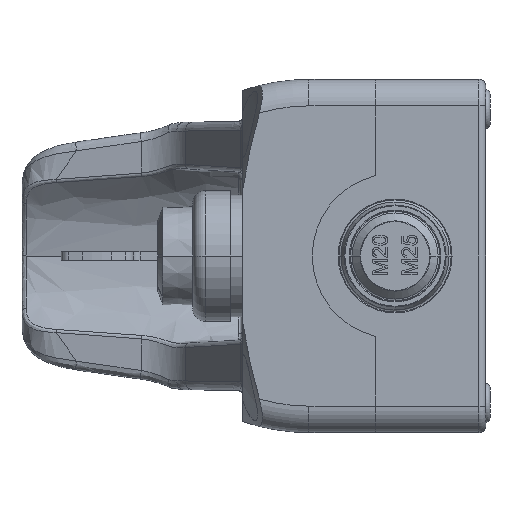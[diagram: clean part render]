
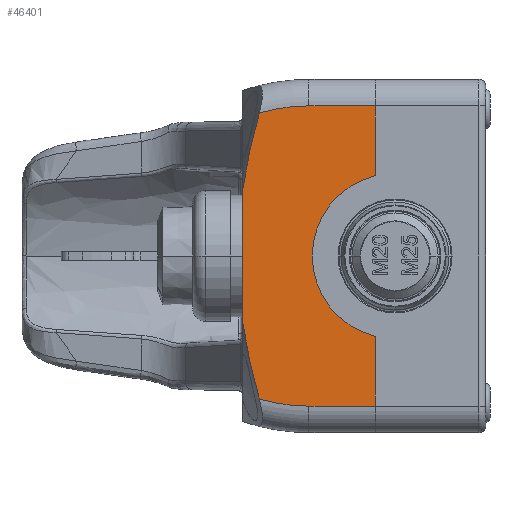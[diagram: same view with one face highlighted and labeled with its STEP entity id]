
A CAD part, left-side view. The second image highlights one B-rep face of the part: STEP entity #46401.
In plain terms, the highlighted planar face has unit normal (-1, 0, 0) as drawn and (0, 0, -1) by its records, which use the part's own axes.
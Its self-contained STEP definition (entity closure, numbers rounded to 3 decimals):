
#942 = CARTESIAN_POINT ( 'NONE',  ( -15.124, 15., -36. ) ) ;
#2735 = CARTESIAN_POINT ( 'NONE',  ( 34., -15., -36. ) ) ;
#3059 = EDGE_CURVE ( 'NONE', #12461, #13041, #3309, .T. ) ;
#3309 = CIRCLE ( 'NONE', #8504, 18.75 ) ;
#3587 = CIRCLE ( 'NONE', #16630, 40.25 ) ;
#4662 = CARTESIAN_POINT ( 'NONE',  ( 26.709, 12.744, -36. ) ) ;
#4939 = ORIENTED_EDGE ( 'NONE', *, *, #47620, .F. ) ;
#5105 = VERTEX_POINT ( 'NONE', #21615 ) ;
#7128 = EDGE_CURVE ( 'NONE', #32638, #5105, #8930, .T. ) ;
#7131 = CARTESIAN_POINT ( 'NONE',  ( 0., -15., -36. ) ) ;
#8496 = PLANE ( 'NONE',  #20454 ) ;
#8504 = AXIS2_PLACEMENT_3D ( 'NONE', #43169, #22752, #39355 ) ;
#8930 = LINE ( 'NONE', #13820, #27939 ) ;
#9232 = DIRECTION ( 'NONE',  ( 0., 0., 1. ) ) ;
#9378 = EDGE_CURVE ( 'NONE', #36283, #29370, #3587, .T. ) ;
#10438 = EDGE_LOOP ( 'NONE', ( #31411, #4939, #46120, #10799, #24593, #47996, #31450, #20978, #23201, #12227 ) ) ;
#10563 = DIRECTION ( 'NONE',  ( 0., -1., 0. ) ) ;
#10799 = ORIENTED_EDGE ( 'NONE', *, *, #37179, .F. ) ;
#10981 = CARTESIAN_POINT ( 'NONE',  ( 34., 0., -36. ) ) ;
#12227 = ORIENTED_EDGE ( 'NONE', *, *, #24559, .T. ) ;
#12461 = VERTEX_POINT ( 'NONE', #20524 ) ;
#13041 = VERTEX_POINT ( 'NONE', #47893 ) ;
#13301 = CARTESIAN_POINT ( 'NONE',  ( 6.25, 0., -36. ) ) ;
#13820 = CARTESIAN_POINT ( 'NONE',  ( -34., -15., -36. ) ) ;
#14096 = DIRECTION ( 'NONE',  ( -1., 0., 0. ) ) ;
#15175 = VERTEX_POINT ( 'NONE', #18053 ) ;
#15843 = DIRECTION ( 'NONE',  ( 0., 0., -1. ) ) ;
#16630 = AXIS2_PLACEMENT_3D ( 'NONE', #53319, #15843, #16919 ) ;
#16895 = CARTESIAN_POINT ( 'NONE',  ( 15.124, 15., -36. ) ) ;
#16911 = DIRECTION ( 'NONE',  ( 0., 0., -1. ) ) ;
#16919 = DIRECTION ( 'NONE',  ( -1., 0., 0. ) ) ;
#17173 = CARTESIAN_POINT ( 'NONE',  ( 32.396, 11.249, -36. ) ) ;
#17496 = CARTESIAN_POINT ( 'NONE',  ( -18.056, 14.56, -36. ) ) ;
#18053 = CARTESIAN_POINT ( 'NONE',  ( -32.396, 11.249, -36. ) ) ;
#20454 = AXIS2_PLACEMENT_3D ( 'NONE', #25067, #16911, #45739 ) ;
#20482 = CARTESIAN_POINT ( 'NONE',  ( -20.957, 14.01, -36. ) ) ;
#20524 = CARTESIAN_POINT ( 'NONE',  ( 18.202, -15., -36. ) ) ;
#20978 = ORIENTED_EDGE ( 'NONE', *, *, #9378, .T. ) ;
#21615 = CARTESIAN_POINT ( 'NONE',  ( -34., -15., -36. ) ) ;
#21774 = EDGE_CURVE ( 'NONE', #25206, #15175, #22202, .T. ) ;
#22202 = B_SPLINE_CURVE_WITH_KNOTS ( 'NONE', 3,
 ( #942, #17496, #20482, #45496, #28662, #33278 ),
 .UNSPECIFIED., .F., .F.,
 ( 4, 2, 4 ),
 ( 0.04, 0.049, 0.058 ),
 .UNSPECIFIED. ) ;
#22752 = DIRECTION ( 'NONE',  ( 0., 0., 1. ) ) ;
#22858 = VERTEX_POINT ( 'NONE', #2735 ) ;
#23105 = VECTOR ( 'NONE', #26693, 1000. ) ;
#23201 = ORIENTED_EDGE ( 'NONE', *, *, #34948, .T. ) ;
#23694 = DIRECTION ( 'NONE',  ( -1., 0., 0. ) ) ;
#23696 = VERTEX_POINT ( 'NONE', #47251 ) ;
#24559 = EDGE_CURVE ( 'NONE', #22858, #12461, #39250, .T. ) ;
#24593 = ORIENTED_EDGE ( 'NONE', *, *, #21774, .F. ) ;
#24992 = DIRECTION ( 'NONE',  ( 1., 0., 0. ) ) ;
#25067 = CARTESIAN_POINT ( 'NONE',  ( 6.25, 0., -36. ) ) ;
#25206 = VERTEX_POINT ( 'NONE', #41715 ) ;
#25242 = CARTESIAN_POINT ( 'NONE',  ( 34., -15., -36. ) ) ;
#26330 = EDGE_CURVE ( 'NONE', #23696, #25206, #38851, .T. ) ;
#26693 = DIRECTION ( 'NONE',  ( 1., 0., 0. ) ) ;
#27939 = VECTOR ( 'NONE', #42658, 1000. ) ;
#28358 = VECTOR ( 'NONE', #23694, 1000. ) ;
#28662 = CARTESIAN_POINT ( 'NONE',  ( -29.561, 12.027, -36. ) ) ;
#29370 = VERTEX_POINT ( 'NONE', #10981 ) ;
#29695 = CARTESIAN_POINT ( 'NONE',  ( 20.957, 14.01, -36. ) ) ;
#30654 = CIRCLE ( 'NONE', #47119, 40.25 ) ;
#31411 = ORIENTED_EDGE ( 'NONE', *, *, #3059, .T. ) ;
#31450 = ORIENTED_EDGE ( 'NONE', *, *, #43832, .T. ) ;
#32487 = B_SPLINE_CURVE_WITH_KNOTS ( 'NONE', 3,
 ( #16895, #45725, #29695, #4662, #38125, #17173 ),
 .UNSPECIFIED., .F., .F.,
 ( 4, 2, 4 ),
 ( 0.04, 0.049, 0.058 ),
 .UNSPECIFIED. ) ;
#32638 = VERTEX_POINT ( 'NONE', #47039 ) ;
#33278 = CARTESIAN_POINT ( 'NONE',  ( -32.396, 11.249, -36. ) ) ;
#33516 = FACE_OUTER_BOUND ( 'NONE', #10438, .T. ) ;
#34857 = LINE ( 'NONE', #46812, #23105 ) ;
#34948 = EDGE_CURVE ( 'NONE', #29370, #22858, #45926, .T. ) ;
#36283 = VERTEX_POINT ( 'NONE', #42873 ) ;
#36595 = VECTOR ( 'NONE', #10563, 1000. ) ;
#37179 = EDGE_CURVE ( 'NONE', #15175, #32638, #30654, .T. ) ;
#37991 = VECTOR ( 'NONE', #14096, 1000. ) ;
#38125 = CARTESIAN_POINT ( 'NONE',  ( 29.561, 12.027, -36. ) ) ;
#38851 = LINE ( 'NONE', #51329, #37991 ) ;
#39250 = LINE ( 'NONE', #7131, #28358 ) ;
#39355 = DIRECTION ( 'NONE',  ( 1., 0., 0. ) ) ;
#41715 = CARTESIAN_POINT ( 'NONE',  ( -15.124, 15., -36. ) ) ;
#42658 = DIRECTION ( 'NONE',  ( 0., -1., 0. ) ) ;
#42873 = CARTESIAN_POINT ( 'NONE',  ( 32.396, 11.249, -36. ) ) ;
#43169 = CARTESIAN_POINT ( 'NONE',  ( 0., -19.5, -36. ) ) ;
#43832 = EDGE_CURVE ( 'NONE', #23696, #36283, #32487, .T. ) ;
#45496 = CARTESIAN_POINT ( 'NONE',  ( -26.709, 12.744, -36. ) ) ;
#45725 = CARTESIAN_POINT ( 'NONE',  ( 18.056, 14.56, -36. ) ) ;
#45739 = DIRECTION ( 'NONE',  ( 1., 0., 0. ) ) ;
#45926 = LINE ( 'NONE', #25242, #36595 ) ;
#46120 = ORIENTED_EDGE ( 'NONE', *, *, #7128, .F. ) ;
#46401 = ADVANCED_FACE ( 'NONE', ( #33516 ), #8496, .T. ) ;
#46812 = CARTESIAN_POINT ( 'NONE',  ( 0., -15., -36. ) ) ;
#47039 = CARTESIAN_POINT ( 'NONE',  ( -34., 0., -36. ) ) ;
#47119 = AXIS2_PLACEMENT_3D ( 'NONE', #13301, #9232, #24992 ) ;
#47251 = CARTESIAN_POINT ( 'NONE',  ( 15.124, 15., -36. ) ) ;
#47620 = EDGE_CURVE ( 'NONE', #5105, #13041, #34857, .T. ) ;
#47893 = CARTESIAN_POINT ( 'NONE',  ( -18.202, -15., -36. ) ) ;
#47996 = ORIENTED_EDGE ( 'NONE', *, *, #26330, .F. ) ;
#51329 = CARTESIAN_POINT ( 'NONE',  ( 0., 15., -36. ) ) ;
#53319 = CARTESIAN_POINT ( 'NONE',  ( -6.25, 0., -36. ) ) ;
